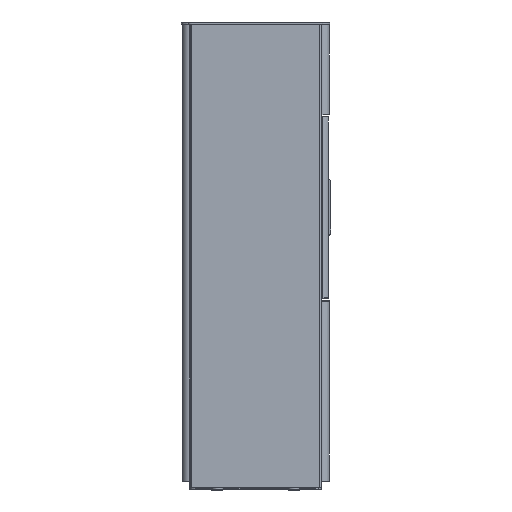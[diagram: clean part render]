
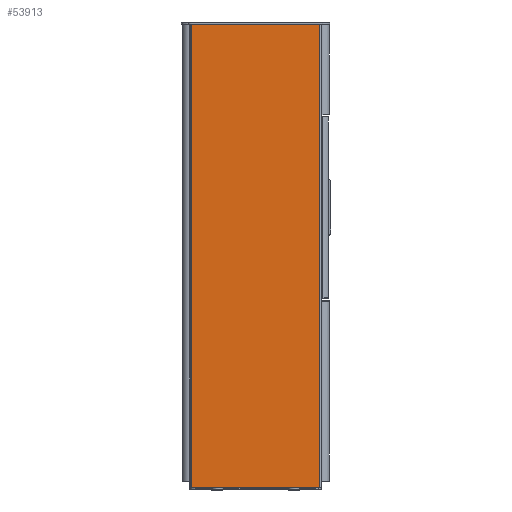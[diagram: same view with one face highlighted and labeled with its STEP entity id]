
A CAD part, left-side view. The second image highlights one B-rep face of the part: STEP entity #53913.
In plain terms, the highlighted planar face has unit normal (-1, 0, 0).
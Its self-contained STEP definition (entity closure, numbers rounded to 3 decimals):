
#4558=LINE('',#103970,#7759);
#4559=LINE('',#103973,#7760);
#4560=LINE('',#103975,#7761);
#4561=LINE('',#103977,#7762);
#7759=VECTOR('',#65273,1000.);
#7760=VECTOR('',#65274,1000.);
#7761=VECTOR('',#65275,1000.);
#7762=VECTOR('',#65276,1000.);
#19484=ORIENTED_EDGE('',*,*,#27517,.F.);
#19485=ORIENTED_EDGE('',*,*,#27518,.T.);
#19486=ORIENTED_EDGE('',*,*,#27519,.T.);
#19487=ORIENTED_EDGE('',*,*,#27520,.T.);
#27517=EDGE_CURVE('',#32331,#32332,#4558,.T.);
#27518=EDGE_CURVE('',#32331,#32333,#4559,.T.);
#27519=EDGE_CURVE('',#32333,#32334,#4560,.T.);
#27520=EDGE_CURVE('',#32334,#32332,#4561,.F.);
#32331=VERTEX_POINT('',#103971);
#32332=VERTEX_POINT('',#103972);
#32333=VERTEX_POINT('',#103974);
#32334=VERTEX_POINT('',#103976);
#37889=EDGE_LOOP('',(#19484,#19485,#19486,#19487));
#40844=FACE_BOUND('',#37889,.T.);
#42702=PLANE('',#56999);
#53913=ADVANCED_FACE('',(#40844),#42702,.F.);
#56999=AXIS2_PLACEMENT_3D('',#103969,#65271,#65272);
#65271=DIRECTION('',(1.,0.,0.));
#65272=DIRECTION('',(0.,0.,-1.));
#65273=DIRECTION('',(0.,-1.,0.));
#65274=DIRECTION('',(0.,0.,-1.));
#65275=DIRECTION('',(0.,-1.,0.));
#65276=DIRECTION('',(0.,0.,-1.));
#103969=CARTESIAN_POINT('',(-133.25,-390.,1392.));
#103970=CARTESIAN_POINT('',(-133.25,-390.,1384.));
#103971=CARTESIAN_POINT('',(-133.25,-4.,1384.));
#103972=CARTESIAN_POINT('',(-133.25,-386.,1384.));
#103973=CARTESIAN_POINT('',(-133.25,-4.,1392.));
#103974=CARTESIAN_POINT('',(-133.25,-4.,6.));
#103975=CARTESIAN_POINT('',(-133.25,-390.,6.));
#103976=CARTESIAN_POINT('',(-133.25,-386.,6.));
#103977=CARTESIAN_POINT('',(-133.25,-386.,1392.));
